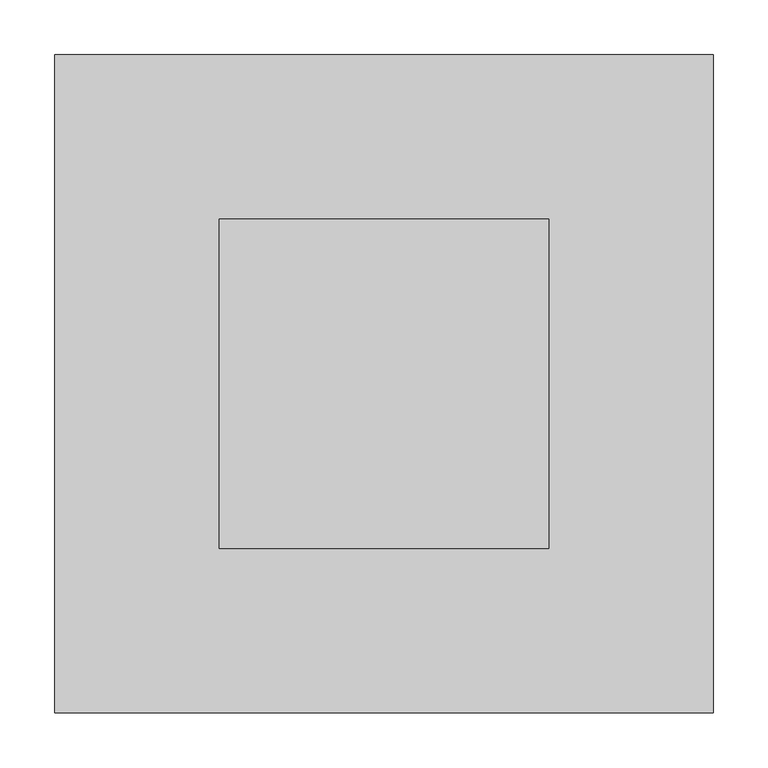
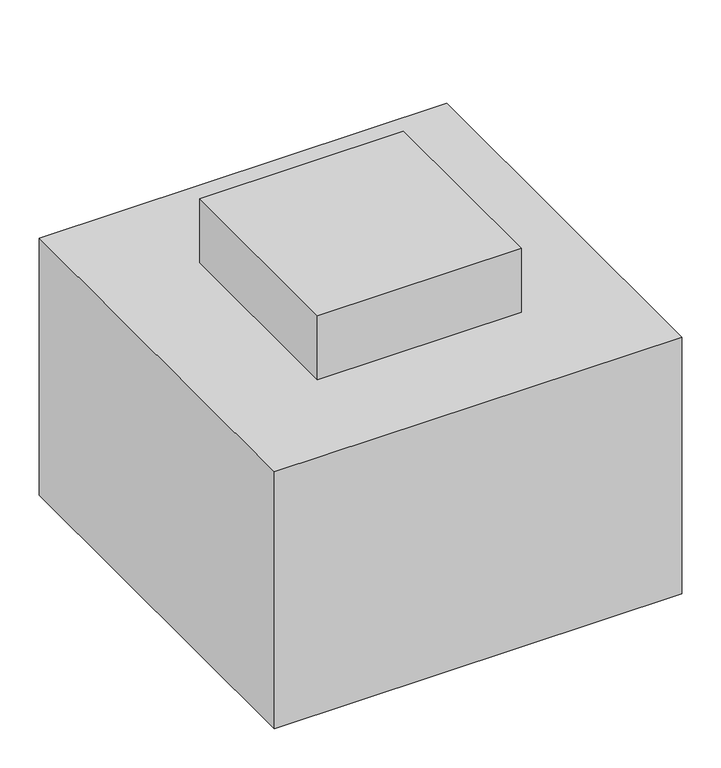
"""IFC4 building model written with IfcOpenShell, lengths in millimetres: duct fitting geometry, BL_Адаптер-СТ_ПР : BL_Адаптер-СТ_ПР."""

from ifc_helpers import new_model, si_unit, frame, origin, place, context, project, spatial, polyline, outline, extrude, source, transform, mapped, element, save


def duct_fitting_5f2c6051(model_context):
    return source(origin(), model_context, "Body", "SweptSolid", [
        extrude(outline(polyline([(150.0, 150.0), (450.0, 150.0), (450.0, -150.0), (150.0, -150.0), (150.0, 150.0)])), frame((0.0, 0.0, 200.0), z_axis=(0.0, 0.0, 1.0), x_axis=(1.0, 0.0, 0.0)), (0.0, 0.0, 1.0), 100.0),
        extrude(outline(polyline([(0.0, -300.0), (0.0, 300.0), (600.0, 300.0), (600.0, -300.0), (0.0, -300.0)])), frame((0.0, 0.0, -200.0), z_axis=(0.0, 0.0, 1.0), x_axis=(1.0, 0.0, 0.0)), (0.0, 0.0, 1.0), 400.0),
    ])


if __name__ == "__main__":
    model = new_model("IFC4")
    model_context = context("Model", 3, world=origin())
    ifc_project = project(units=[si_unit("LENGTHUNIT", "METRE", prefix="MILLI")], contexts=[model_context])
    site = spatial("IfcSite", under=ifc_project)
    building = spatial("IfcBuilding", under=site)
    placement = place(None, origin())
    duct_fitting_shape = duct_fitting_5f2c6051(model_context)
    element("IfcDuctFitting", 1, ObjectType="BL_Адаптер-СТ_ПР : BL_Адаптер-СТ_ПР", at=placement, inside=building, context=model_context, shape_type="MappedRepresentation", body=[
        mapped(duct_fitting_shape, transform((0.0, 0.0, 0.0), x_axis=(1.0, 0.0, 0.0), y_axis=(0.0, 1.0, 0.0), z_axis=(0.0, 0.0, 1.0))),
    ])
    save(model, "model.ifc")
